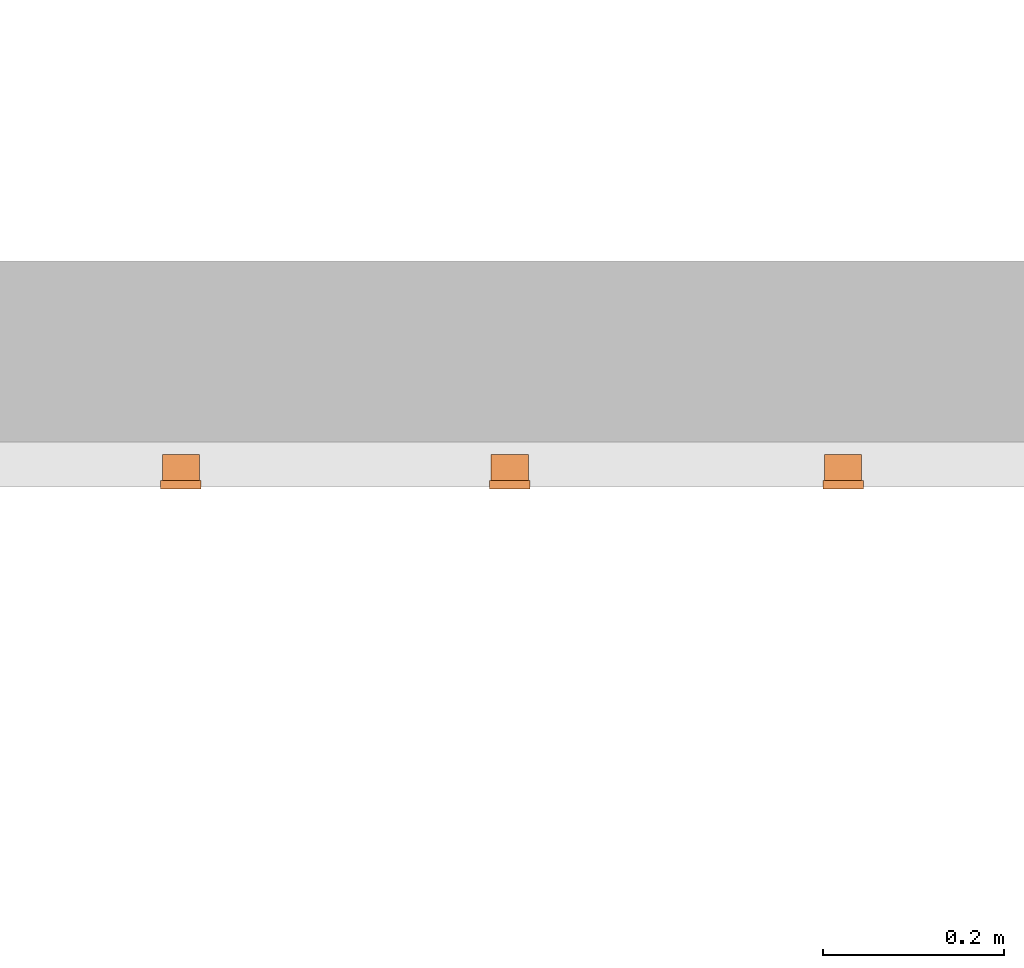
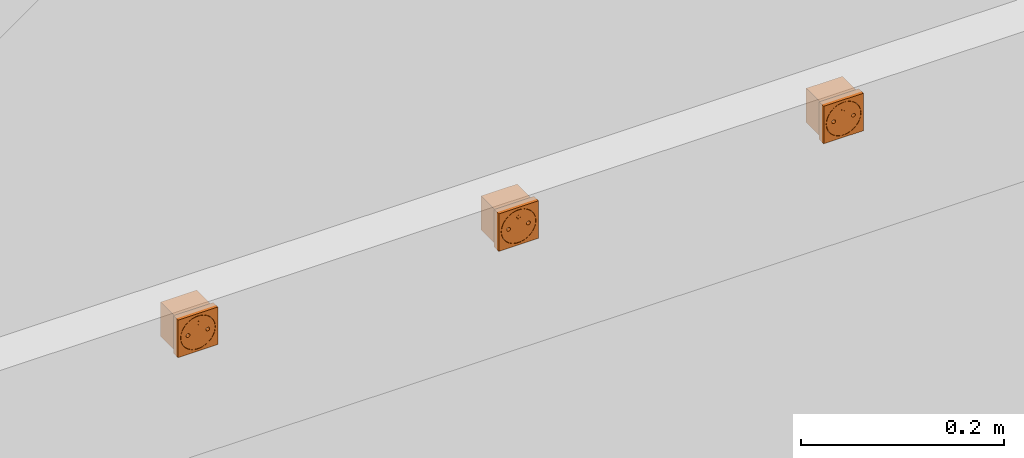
# One storey, part 85 of 197: 3 proxies.
"""IFC2X3 building model written with IfcOpenShell, lengths in metres."""

from ifc_helpers import new_model, entity, si_unit, converted_unit, direction, frame, frame_2d, origin, origin_2d_with_axis, place, context, subcontext, project, spatial, polyline, circle_curve, parameter, trimmed, segment, composite_curve, rectangle, circle, outline, extrude, source, transform, mapped, material, material_list, type_object, type_shapes, element, save


model = new_model("IFC2X3")

# Units and contexts
model_context = context("Model", 3, precision=1e-05, world=origin(), true_north=direction((6.123031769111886e-17, 1.0)))
body_context = subcontext(model_context, "Body", "Model", "MODEL_VIEW")
ifc_project = project(units=[si_unit("LENGTHUNIT", "METRE"), converted_unit("PLANEANGLEUNIT", "DEGREE", entity("IfcPlaneAngleMeasure", 0.017453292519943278), si_unit("PLANEANGLEUNIT", "RADIAN"), dimensions=[0, 0, 0, 0, 0, 0, 0]), si_unit("AREAUNIT", "SQUARE_METRE")], contexts=[model_context])

# Site, building, storey
site_placement = place(None, origin())
site = spatial("IfcSite", under=ifc_project, at=site_placement, Name="Default", CompositionType="ELEMENT")
building_placement = place(site_placement, origin())
building = spatial("IfcBuilding", under=site, at=building_placement, CompositionType="ELEMENT")
storey_placement = place(building_placement, origin())
storey = spatial("IfcBuildingStorey", under=building, at=storey_placement, Name="Niveau 0", CompositionType="ELEMENT", Elevation=0.0)

# Proxies
ifc_material_1 = material(Name="<Unnamed>")
ifc_material_2 = material(Name="BETCE-PCN-BLANC")
ifc_material_list_1 = material_list([ifc_material_1, ifc_material_2])
building_element_proxy_type_1 = type_object("IfcBuildingElementProxyType", Name="Prise simple goulotte:PCM", PredefinedType="NOTDEFINED", material=ifc_material_list_1)
shared_shape_1 = source(origin(), body_context, "Body", "SweptSolid", [
    extrude(circle(Radius=0.002099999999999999, at=frame_2d((1.0358089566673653e-19, -8.459899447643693e-18), x_axis=(1.0, 0.0))), frame((0.0, -0.008993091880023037, 0.011100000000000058), z_axis=(0.0, 1.0, 0.0), x_axis=(-1.0, 0.0, 0.0)), (0.0, 0.0, 1.0), 0.008993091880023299),
    extrude(rectangle(XDim=0.02900000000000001, YDim=0.04100000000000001, at=frame_2d((8.673617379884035e-19, -1.734723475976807e-18), x_axis=(1.0, 0.0))), frame((0.0, 0.01450690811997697, -0.020500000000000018), z_axis=(0.0, 0.0, 1.0), x_axis=(0.0, 1.0, 0.0)), (0.0, 0.0, 1.0), 0.04100000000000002),
    extrude(outline(polyline([(-0.022500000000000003, -0.0225), (0.022500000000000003, -0.0225), (0.022500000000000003, 0.0225), (-0.0225, 0.0225), (-0.022500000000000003, -0.0225)]), holes=[composite_curve([segment(trimmed(circle_curve(frame_2d((0.0, 0.0), x_axis=(0.0, -1.0)), 0.019799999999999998), [parameter(179.99999999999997)], [parameter(359.99999999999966)], True, "PARAMETER"), False, "CONTINUOUS"), segment(trimmed(circle_curve(frame_2d((0.0, 0.0), x_axis=(0.0, -1.0)), 0.019799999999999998), [parameter(3.5622212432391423e-13)], [parameter(179.99999999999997)], True, "PARAMETER"), False, "CONTINUOUS")], self_intersect=False)]), frame((0.0, -0.008993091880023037, 0.0), z_axis=(0.0, 1.0, 0.0), x_axis=(0.0, 0.0, 1.0)), (0.0, 0.0, 1.0), 0.008993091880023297),
    extrude(outline(composite_curve([segment(trimmed(circle_curve(origin_2d_with_axis(), 0.0195), [parameter(3.5622212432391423e-13)], [parameter(180.00000000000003)], True, "PARAMETER"), True, "CONTINUOUS"), segment(trimmed(circle_curve(origin_2d_with_axis(), 0.0195), [parameter(180.00000000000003)], [parameter(359.99999999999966)], True, "PARAMETER"), True, "CONTINUOUS")], self_intersect=False), holes=[composite_curve([segment(trimmed(circle_curve(frame_2d((0.0, 0.011099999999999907), x_axis=(1.0, 0.0)), 0.0022), [parameter(180.00000000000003)], [parameter(359.9999999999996)], True, "PARAMETER"), False, "CONTINUOUS"), segment(trimmed(circle_curve(frame_2d((0.0, 0.011099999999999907), x_axis=(1.0, 0.0)), 0.0022), [parameter(4.0711099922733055e-13)], [parameter(180.00000000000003)], True, "PARAMETER"), False, "CONTINUOUS")], self_intersect=False), composite_curve([segment(trimmed(circle_curve(frame_2d((0.011199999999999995, 0.0), x_axis=(-0.7071067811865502, 0.7071067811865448)), 0.0022), [parameter(179.99999999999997)], [parameter(359.99999999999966)], True, "PARAMETER"), False, "CONTINUOUS"), segment(trimmed(circle_curve(frame_2d((0.011199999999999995, 0.0), x_axis=(-0.7071067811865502, 0.7071067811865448)), 0.0022), [parameter(3.5622212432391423e-13)], [parameter(179.99999999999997)], True, "PARAMETER"), False, "CONTINUOUS")], self_intersect=False), composite_curve([segment(trimmed(circle_curve(frame_2d((-0.011200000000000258, 0.0), x_axis=(0.7071067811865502, 0.7071067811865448)), 0.0022), [parameter(179.99999999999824)], [parameter(2.086443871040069e-12)], True, "PARAMETER"), False, "CONTINUOUS"), segment(trimmed(circle_curve(frame_2d((-0.011200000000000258, 0.0), x_axis=(0.7071067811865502, 0.7071067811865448)), 0.0022), [parameter(2.849776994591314e-12)], [parameter(179.99999999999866)], True, "PARAMETER"), False, "CONTINUOUS")], self_intersect=False)]), frame((0.0, -0.008993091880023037, 0.0), z_axis=(0.0, 1.0, 0.0), x_axis=(-1.0, 0.0, 0.0)), (0.0, 0.0, 1.0), 0.008993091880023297),
])
type_shapes(building_element_proxy_type_1, [shared_shape_1])
proxy_1_placement = place(storey_placement, frame((-403.3274485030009, 76.46896719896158, 0.8693246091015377)))
element("IfcBuildingElementProxy", 1, at=proxy_1_placement, inside=storey, type_object=building_element_proxy_type_1, material=ifc_material_list_1, Name="Prise simple goulotte:PCM", ObjectType="Prise simple goulotte:PCM", context=body_context, shape_type="MappedRepresentation", body=[
    mapped(shared_shape_1, transform((0.0, 0.0, 0.0), scale=1.0)),
])
building_element_proxy_type_2 = type_object("IfcBuildingElementProxyType", Name="Prise simple goulotte:PCN", PredefinedType="NOTDEFINED", material=ifc_material_list_1)
shared_shape_2 = source(origin(), body_context, "Body", "SweptSolid", [
    extrude(circle(Radius=0.002099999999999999, at=frame_2d((1.0358089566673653e-19, -8.459899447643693e-18), x_axis=(1.0, 0.0))), frame((0.0, -0.008993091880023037, 0.011100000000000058), z_axis=(0.0, 1.0, 0.0), x_axis=(-1.0, 0.0, 0.0)), (0.0, 0.0, 1.0), 0.008993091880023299),
    extrude(rectangle(XDim=0.02900000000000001, YDim=0.04100000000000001, at=frame_2d((8.673617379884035e-19, -1.734723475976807e-18), x_axis=(1.0, 0.0))), frame((0.0, 0.01450690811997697, -0.020500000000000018), z_axis=(0.0, 0.0, 1.0), x_axis=(0.0, 1.0, 0.0)), (0.0, 0.0, 1.0), 0.04100000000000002),
    extrude(outline(polyline([(-0.022500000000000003, -0.0225), (0.022500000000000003, -0.0225), (0.022500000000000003, 0.0225), (-0.0225, 0.0225), (-0.022500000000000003, -0.0225)]), holes=[composite_curve([segment(trimmed(circle_curve(frame_2d((0.0, 0.0), x_axis=(0.0, -1.0)), 0.019799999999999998), [parameter(179.99999999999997)], [parameter(359.99999999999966)], True, "PARAMETER"), False, "CONTINUOUS"), segment(trimmed(circle_curve(frame_2d((0.0, 0.0), x_axis=(0.0, -1.0)), 0.019799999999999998), [parameter(3.5622212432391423e-13)], [parameter(179.99999999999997)], True, "PARAMETER"), False, "CONTINUOUS")], self_intersect=False)]), frame((0.0, -0.008993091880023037, 0.0), z_axis=(0.0, 1.0, 0.0), x_axis=(0.0, 0.0, 1.0)), (0.0, 0.0, 1.0), 0.008993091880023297),
    extrude(outline(composite_curve([segment(trimmed(circle_curve(origin_2d_with_axis(), 0.0195), [parameter(3.5622212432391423e-13)], [parameter(180.00000000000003)], True, "PARAMETER"), True, "CONTINUOUS"), segment(trimmed(circle_curve(origin_2d_with_axis(), 0.0195), [parameter(180.00000000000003)], [parameter(359.99999999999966)], True, "PARAMETER"), True, "CONTINUOUS")], self_intersect=False), holes=[composite_curve([segment(trimmed(circle_curve(frame_2d((0.0, 0.011099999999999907), x_axis=(1.0, 0.0)), 0.0022), [parameter(180.00000000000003)], [parameter(359.9999999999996)], True, "PARAMETER"), False, "CONTINUOUS"), segment(trimmed(circle_curve(frame_2d((0.0, 0.011099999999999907), x_axis=(1.0, 0.0)), 0.0022), [parameter(4.0711099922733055e-13)], [parameter(180.00000000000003)], True, "PARAMETER"), False, "CONTINUOUS")], self_intersect=False), composite_curve([segment(trimmed(circle_curve(frame_2d((0.011199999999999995, 0.0), x_axis=(-0.7071067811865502, 0.7071067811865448)), 0.0022), [parameter(179.99999999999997)], [parameter(359.99999999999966)], True, "PARAMETER"), False, "CONTINUOUS"), segment(trimmed(circle_curve(frame_2d((0.011199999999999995, 0.0), x_axis=(-0.7071067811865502, 0.7071067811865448)), 0.0022), [parameter(3.5622212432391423e-13)], [parameter(179.99999999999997)], True, "PARAMETER"), False, "CONTINUOUS")], self_intersect=False), composite_curve([segment(trimmed(circle_curve(frame_2d((-0.011200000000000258, 0.0), x_axis=(0.7071067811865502, 0.7071067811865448)), 0.0022), [parameter(179.99999999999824)], [parameter(2.086443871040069e-12)], True, "PARAMETER"), False, "CONTINUOUS"), segment(trimmed(circle_curve(frame_2d((-0.011200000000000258, 0.0), x_axis=(0.7071067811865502, 0.7071067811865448)), 0.0022), [parameter(2.849776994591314e-12)], [parameter(179.99999999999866)], True, "PARAMETER"), False, "CONTINUOUS")], self_intersect=False)]), frame((0.0, -0.008993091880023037, 0.0), z_axis=(0.0, 1.0, 0.0), x_axis=(-1.0, 0.0, 0.0)), (0.0, 0.0, 1.0), 0.008993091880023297),
])
type_shapes(building_element_proxy_type_2, [shared_shape_2])
proxy_2_placement = place(storey_placement, frame((-402.9634485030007, 76.46896719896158, 0.8693246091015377)))
element("IfcBuildingElementProxy", 2, at=proxy_2_placement, inside=storey, type_object=building_element_proxy_type_2, material=ifc_material_list_1, Name="Prise simple goulotte:PCN", ObjectType="Prise simple goulotte:PCN", context=body_context, shape_type="MappedRepresentation", body=[
    mapped(shared_shape_2, transform((0.0, 0.0, 0.0), scale=1.0)),
])
ifc_material_3 = material(Name="BETCE-PCO-ROUGE")
ifc_material_list_2 = material_list([ifc_material_1, ifc_material_3])
building_element_proxy_type_3 = type_object("IfcBuildingElementProxyType", Name="Prise simple goulotte:PCO", PredefinedType="NOTDEFINED", material=ifc_material_list_2)
shared_shape_3 = source(origin(), body_context, "Body", "SweptSolid", [
    extrude(circle(Radius=0.002099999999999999, at=frame_2d((1.0358089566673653e-19, -8.459899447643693e-18), x_axis=(1.0, 0.0))), frame((0.0, -0.008993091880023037, 0.011100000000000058), z_axis=(0.0, 1.0, 0.0), x_axis=(-1.0, 0.0, 0.0)), (0.0, 0.0, 1.0), 0.008993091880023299),
    extrude(rectangle(XDim=0.02900000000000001, YDim=0.04100000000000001, at=frame_2d((8.673617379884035e-19, -1.734723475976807e-18), x_axis=(1.0, 0.0))), frame((0.0, 0.01450690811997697, -0.020500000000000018), z_axis=(0.0, 0.0, 1.0), x_axis=(0.0, 1.0, 0.0)), (0.0, 0.0, 1.0), 0.04100000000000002),
    extrude(outline(polyline([(-0.022500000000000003, -0.0225), (0.022500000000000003, -0.0225), (0.022500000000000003, 0.0225), (-0.0225, 0.0225), (-0.022500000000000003, -0.0225)]), holes=[composite_curve([segment(trimmed(circle_curve(frame_2d((0.0, 0.0), x_axis=(0.0, -1.0)), 0.019799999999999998), [parameter(179.99999999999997)], [parameter(359.99999999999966)], True, "PARAMETER"), False, "CONTINUOUS"), segment(trimmed(circle_curve(frame_2d((0.0, 0.0), x_axis=(0.0, -1.0)), 0.019799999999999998), [parameter(3.5622212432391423e-13)], [parameter(179.99999999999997)], True, "PARAMETER"), False, "CONTINUOUS")], self_intersect=False)]), frame((0.0, -0.008993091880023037, 0.0), z_axis=(0.0, 1.0, 0.0), x_axis=(0.0, 0.0, 1.0)), (0.0, 0.0, 1.0), 0.008993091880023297),
    extrude(outline(composite_curve([segment(trimmed(circle_curve(origin_2d_with_axis(), 0.0195), [parameter(3.5622212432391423e-13)], [parameter(180.00000000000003)], True, "PARAMETER"), True, "CONTINUOUS"), segment(trimmed(circle_curve(origin_2d_with_axis(), 0.0195), [parameter(180.00000000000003)], [parameter(359.99999999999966)], True, "PARAMETER"), True, "CONTINUOUS")], self_intersect=False), holes=[composite_curve([segment(trimmed(circle_curve(frame_2d((0.0, 0.011099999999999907), x_axis=(1.0, 0.0)), 0.0022), [parameter(180.00000000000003)], [parameter(359.9999999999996)], True, "PARAMETER"), False, "CONTINUOUS"), segment(trimmed(circle_curve(frame_2d((0.0, 0.011099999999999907), x_axis=(1.0, 0.0)), 0.0022), [parameter(4.0711099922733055e-13)], [parameter(180.00000000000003)], True, "PARAMETER"), False, "CONTINUOUS")], self_intersect=False), composite_curve([segment(trimmed(circle_curve(frame_2d((0.011199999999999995, 0.0), x_axis=(-0.7071067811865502, 0.7071067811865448)), 0.0022), [parameter(179.99999999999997)], [parameter(359.99999999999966)], True, "PARAMETER"), False, "CONTINUOUS"), segment(trimmed(circle_curve(frame_2d((0.011199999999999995, 0.0), x_axis=(-0.7071067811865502, 0.7071067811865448)), 0.0022), [parameter(3.5622212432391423e-13)], [parameter(179.99999999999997)], True, "PARAMETER"), False, "CONTINUOUS")], self_intersect=False), composite_curve([segment(trimmed(circle_curve(frame_2d((-0.011200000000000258, 0.0), x_axis=(0.7071067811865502, 0.7071067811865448)), 0.0022), [parameter(179.99999999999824)], [parameter(2.086443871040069e-12)], True, "PARAMETER"), False, "CONTINUOUS"), segment(trimmed(circle_curve(frame_2d((-0.011200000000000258, 0.0), x_axis=(0.7071067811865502, 0.7071067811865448)), 0.0022), [parameter(2.849776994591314e-12)], [parameter(179.99999999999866)], True, "PARAMETER"), False, "CONTINUOUS")], self_intersect=False)]), frame((0.0, -0.008993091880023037, 0.0), z_axis=(0.0, 1.0, 0.0), x_axis=(-1.0, 0.0, 0.0)), (0.0, 0.0, 1.0), 0.008993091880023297),
])
type_shapes(building_element_proxy_type_3, [shared_shape_3])
proxy_3_placement = place(storey_placement, frame((-402.5944485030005, 76.46896719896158, 0.8693246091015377)))
element("IfcBuildingElementProxy", 3, at=proxy_3_placement, inside=storey, type_object=building_element_proxy_type_3, material=ifc_material_list_2, Name="Prise simple goulotte:PCO", ObjectType="Prise simple goulotte:PCO", context=body_context, shape_type="MappedRepresentation", body=[
    mapped(shared_shape_3, transform((0.0, 0.0, 0.0), scale=1.0)),
])

save(model, "model.ifc")
